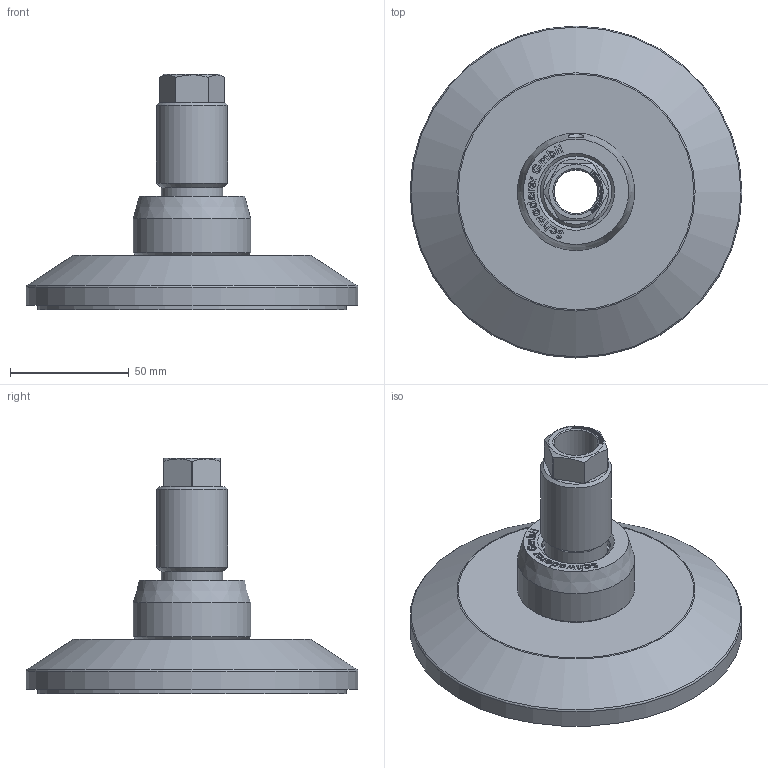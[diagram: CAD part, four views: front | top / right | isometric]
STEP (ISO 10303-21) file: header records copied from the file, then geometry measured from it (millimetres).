
FILE_DESCRIPTION(/* description */ ('JCM 130C - M30 - S6'),/* implementation_level */ '2;1');
FILE_NAME(/* name */ 'P:\CAD ab 2015\STP - Internetseite\JCMHD\JCMHD 130C - S6 - HSD70.stp',/* time_stamp */ '2021-10-01T09:35:34+02:00',/* author */ ('torsten'),/* organization */ ('Schwaderer GmbH Robert-Bosch-Str. 10 71563 Affalterbach'),/* preprocessor_version */ 'ST-DEVELOPER v18.1',/* originating_system */ 'Autodesk Inventor LT',/* authorisation */ '');
FILE_SCHEMA (('CONFIG_CONTROL_DESIGN'));
Length unit declared in the file: millimetre
Products named in the file (1): JCMHD 130C - S6 - HSD110
Bounding box: 140 x 140 x 99.4 mm (x, y, z)
Volume: 343722.6 mm3; surface area: 87318.2 mm2
Topology: 4 solids, 4 shells, 479 faces, 1302 edges, 871 vertices
Faces by surface type: plane 243, bspline 192, cylinder 23, cone 17, torus 3, sphere 1
Full cylindrical faces by diameter (mm): 5 x1, 18.5 x2, 25 x1, 26 x1, 26.5 x1, 27.5 x1, 28.5 x2, 30 x2, 31 x1, 49.5 x1, 130 x2, 140 x1
Entity records: 16618 total; most frequent: CARTESIAN_POINT 5625, ORIENTED_EDGE 2604, DIRECTION 1597, EDGE_CURVE 1302, VERTEX_POINT 871, LINE 781, VECTOR 781, EDGE_LOOP 529
